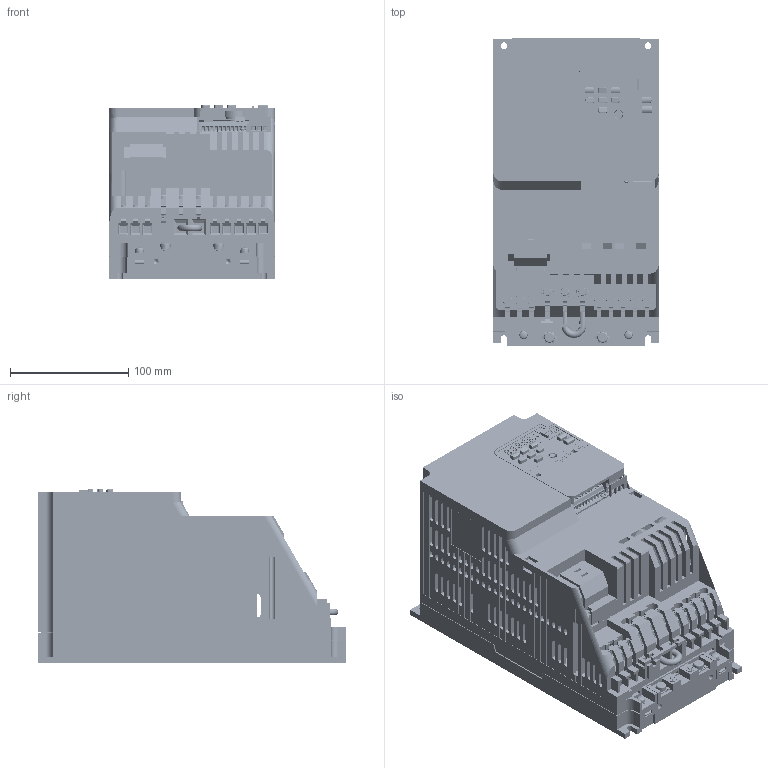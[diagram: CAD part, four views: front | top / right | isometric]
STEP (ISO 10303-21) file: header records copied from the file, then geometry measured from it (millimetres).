
FILE_DESCRIPTION((''),'2;1');
FILE_NAME('CIPR-GA50X2042AJXX_ASM','2021-05-20T',('ktc_001'),('YASKAWA ELECTRIC CORCORATION'),'PRO/ENGINEER BY PARAMETRIC TECHNOLOGY CORPORATION, 2017170','PRO/ENGINEER BY PARAMETRIC TECHNOLOGY CORPORATION, 2017170','');
FILE_SCHEMA(('AUTOMOTIVE_DESIGN { 1 0 10303 214 1 1 1 1 }'));
Products named in the file (12): CIPR-GA50_2042_STD_JP20_BODY_1; CIPR-GA50_ALL_TB; CIPR-GA50_KEYPAD; CIPR-GA50_USB_COVER; CIPR-GA50_FP; CIPR-GA50_SCREW_GND_M5X10; CIPR-GA50_SCREW_M4X12; CIPR-GA50_COMMON_6; CIPR-GA50_COMMON_1; CIPR-GA50_COMMON_2; CIPR-GA50_TERMINAL_COVER_5; CIPR-GA50X2042AJXX_ASM
Assembly tree (13 placements, depth 2):
  CIPR-GA50X2042AJXX_ASM
    CIPR-GA50_2042_STD_JP20_BODY_1
    CIPR-GA50_ALL_TB
    CIPR-GA50_KEYPAD
    CIPR-GA50_USB_COVER
    CIPR-GA50_FP
    CIPR-GA50_SCREW_GND_M5X10  x2
    CIPR-GA50_SCREW_M4X12  x2
    CIPR-GA50_COMMON_6
    CIPR-GA50_COMMON_1
    CIPR-GA50_COMMON_2
    CIPR-GA50_TERMINAL_COVER_5
Bounding box: 140 x 260 x 147.75 mm (x, y, z)
Volume: 3639958.9 mm3; surface area: 349643.7 mm2
Topology: 17 solids, 17 shells, 7906 faces, 21380 edges, 13980 vertices
Faces by surface type: plane 6026, cylinder 1695, torus 58, bspline 58, cone 55, sphere 14
Entity records: 305014 total; most frequent: CARTESIAN_POINT 48033, ORIENTED_EDGE 42208, DIRECTION 39848, EDGE_CURVE 21104, VECTOR 17036, LINE 17036, VERTEX_POINT 13835, AXIS2_PLACEMENT_3D 11406
